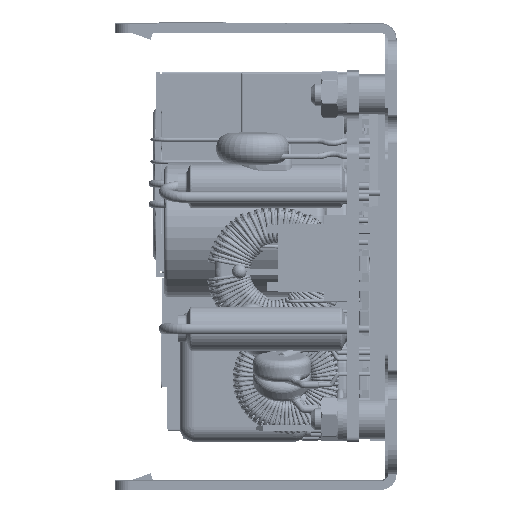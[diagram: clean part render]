
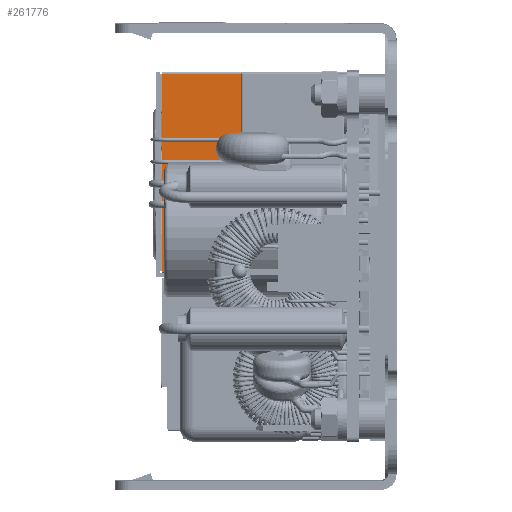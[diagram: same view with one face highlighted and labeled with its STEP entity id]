
A CAD part, left-side view. The second image highlights one B-rep face of the part: STEP entity #261776.
In plain terms, the highlighted planar face has unit normal (-1, 0, -0.002).
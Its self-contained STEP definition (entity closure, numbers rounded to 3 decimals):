
#18902 = AXIS2_PLACEMENT_3D ( 'NONE', #357209, #64216, #277000 ) ;
#22366 = PLANE ( 'NONE',  #18902 ) ;
#57801 = DIRECTION ( 'NONE',  ( -0.002, 0., 1. ) ) ;
#59704 = ORIENTED_EDGE ( 'NONE', *, *, #472179, .T. ) ;
#64216 = DIRECTION ( 'NONE',  ( 1., 0., 0.002 ) ) ;
#77496 = EDGE_CURVE ( 'NONE', #274315, #469029, #275963, .T. ) ;
#117527 = CARTESIAN_POINT ( 'NONE',  ( -30.517, 4.289, 7.002 ) ) ;
#121589 = LINE ( 'NONE', #249444, #342997 ) ;
#128282 = CARTESIAN_POINT ( 'NONE',  ( -30.517, 29.289, 7.002 ) ) ;
#137669 = LINE ( 'NONE', #235045, #229150 ) ;
#171414 = EDGE_CURVE ( 'NONE', #371606, #536426, #222056, .T. ) ;
#202144 = EDGE_LOOP ( 'NONE', ( #59704, #423258, #504633, #309111 ) ) ;
#222056 = LINE ( 'NONE', #425687, #319639 ) ;
#229150 = VECTOR ( 'NONE', #526434, 1000. ) ;
#235045 = CARTESIAN_POINT ( 'NONE',  ( -30.517, 4.289, 7.002 ) ) ;
#238935 = DIRECTION ( 'NONE',  ( 0.002, 0., -1. ) ) ;
#249444 = CARTESIAN_POINT ( 'NONE',  ( -30.56, 4.289, 34.002 ) ) ;
#261776 = ADVANCED_FACE ( 'NONE', ( #264779 ), #22366, .F. ) ;
#264779 = FACE_OUTER_BOUND ( 'NONE', #202144, .T. ) ;
#274315 = VERTEX_POINT ( 'NONE', #291172 ) ;
#275963 = LINE ( 'NONE', #128282, #328191 ) ;
#277000 = DIRECTION ( 'NONE',  ( 0.002, 0., -1. ) ) ;
#283531 = EDGE_CURVE ( 'NONE', #469029, #371606, #137669, .T. ) ;
#291172 = CARTESIAN_POINT ( 'NONE',  ( -30.56, 29.289, 34.002 ) ) ;
#309111 = ORIENTED_EDGE ( 'NONE', *, *, #171414, .T. ) ;
#319639 = VECTOR ( 'NONE', #57801, 1000. ) ;
#328191 = VECTOR ( 'NONE', #238935, 1000. ) ;
#336898 = DIRECTION ( 'NONE',  ( 0., 1., 0. ) ) ;
#342997 = VECTOR ( 'NONE', #336898, 1000. ) ;
#344654 = CARTESIAN_POINT ( 'NONE',  ( -30.56, 4.289, 34.002 ) ) ;
#357209 = CARTESIAN_POINT ( 'NONE',  ( -30.538, 16.789, 20.502 ) ) ;
#371606 = VERTEX_POINT ( 'NONE', #117527 ) ;
#423258 = ORIENTED_EDGE ( 'NONE', *, *, #77496, .T. ) ;
#425687 = CARTESIAN_POINT ( 'NONE',  ( -30.517, 4.289, 7.002 ) ) ;
#469029 = VERTEX_POINT ( 'NONE', #534023 ) ;
#472179 = EDGE_CURVE ( 'NONE', #536426, #274315, #121589, .T. ) ;
#504633 = ORIENTED_EDGE ( 'NONE', *, *, #283531, .T. ) ;
#526434 = DIRECTION ( 'NONE',  ( 0., -1., 0. ) ) ;
#534023 = CARTESIAN_POINT ( 'NONE',  ( -30.517, 29.289, 7.002 ) ) ;
#536426 = VERTEX_POINT ( 'NONE', #344654 ) ;
